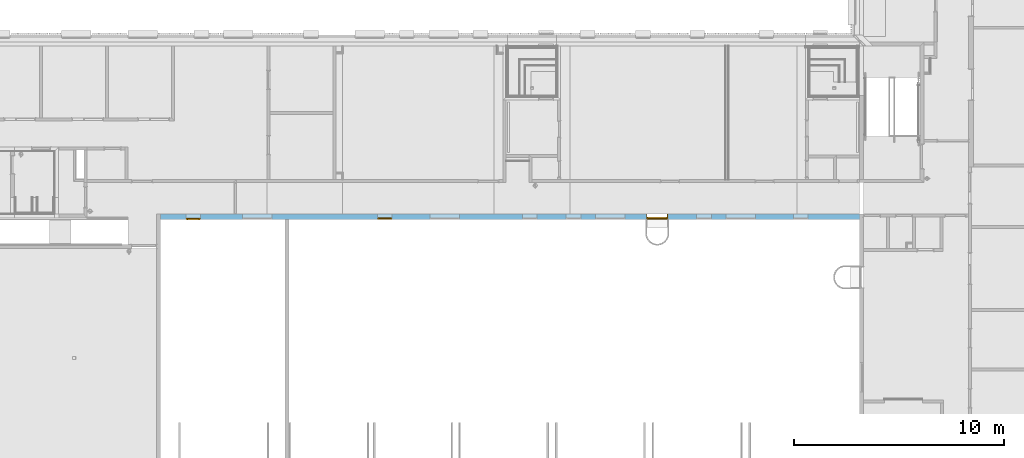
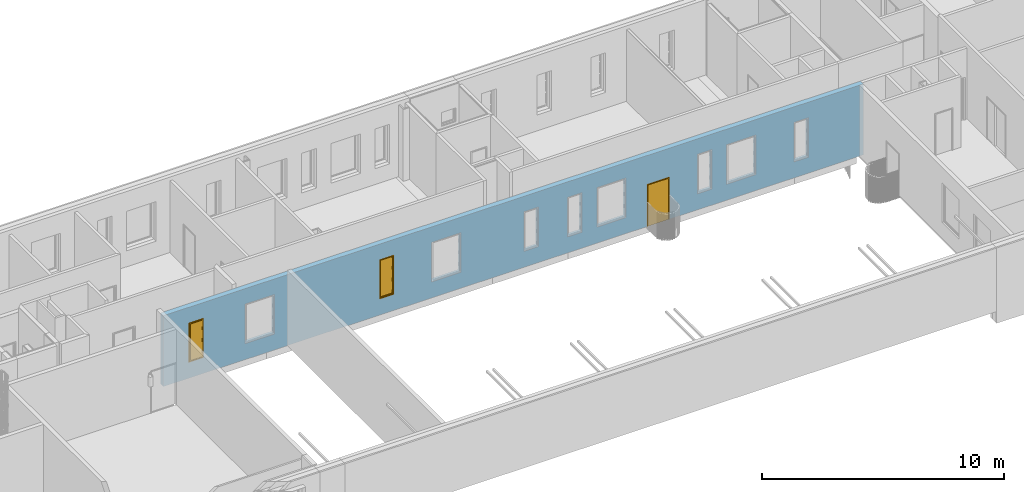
# One storey, part 54 of 100: 2 windows, 1 door, 11 openings, plus 1 element that does not belong to this part.
"""IFC2X3 building model written with IfcOpenShell, lengths in millimetres."""

from ifc_helpers import new_model, entity, si_unit, converted_unit, derived_unit, money_unit, direction, frame, origin_with_axes, origin_2d_with_axis, place, context, subcontext, project, spatial, polyline, rectangle, outline, extrude, open_shell, faceted_brep, surface_model, material, layer, layer_set, layer_usage, type_object, element, fill, save


model = new_model("IFC2X3")

# Units and contexts
model_context = context("Model", 3, precision=0.01, world=origin_with_axes(), true_north=direction((0.0, 1.0)))
body_context = subcontext(model_context, "Body", "Model", "MODEL_VIEW")
ifc_project = project(units=[si_unit("LENGTHUNIT", "METRE", prefix="MILLI"), si_unit("AREAUNIT", "SQUARE_METRE"), si_unit("VOLUMEUNIT", "CUBIC_METRE"), converted_unit("PLANEANGLEUNIT", "DEGREE", entity("IfcPlaneAngleMeasure", 0.0174532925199), si_unit("PLANEANGLEUNIT", "RADIAN"), dimensions=[0, 0, 0, 0, 0, 0, 0]), si_unit("SOLIDANGLEUNIT", "STERADIAN"), money_unit("EUR"), converted_unit("TIMEUNIT", "Year", entity("IfcTimeMeasure", 31556926.0), si_unit("TIMEUNIT", "SECOND"), dimensions=[0, 0, 1, 0, 0, 0, 0]), si_unit("MASSUNIT", "GRAM", prefix="KILO"), si_unit("THERMODYNAMICTEMPERATUREUNIT", "DEGREE_CELSIUS"), si_unit("LUMINOUSINTENSITYUNIT", "LUMEN"), si_unit("ENERGYUNIT", "JOULE", prefix="MEGA"), derived_unit("THERMALCONDUCTANCEUNIT", [(si_unit("POWERUNIT", "WATT"), 1), (si_unit("LENGTHUNIT", "METRE"), -1), (si_unit("THERMODYNAMICTEMPERATUREUNIT", "KELVIN"), -1)]), derived_unit("SPECIFICHEATCAPACITYUNIT", [(si_unit("ENERGYUNIT", "JOULE"), 1), (si_unit("MASSUNIT", "GRAM", prefix="KILO"), -1), (si_unit("THERMODYNAMICTEMPERATUREUNIT", "KELVIN"), -1)]), derived_unit("MASSDENSITYUNIT", [(si_unit("MASSUNIT", "GRAM", prefix="KILO"), 1), (si_unit("VOLUMEUNIT", "CUBIC_METRE"), -1)])], contexts=[model_context])

# Site, building, storey
site_placement = place(None, origin_with_axes())
site = spatial("IfcSite", under=ifc_project, at=site_placement, Name="Politse- ja Piirivalveameti ning Päästeameti ühishoone", CompositionType="ELEMENT")
building_placement = place(site_placement, origin_with_axes())
building = spatial("IfcBuilding", under=site, at=building_placement, Name="Politse- ja Piirivalveameti ning Päästeameti ühishoone", CompositionType="ELEMENT")
storey_placement = place(building_placement, frame((0.0, 0.0, 3800.0), z_axis=(0.0, 0.0, 1.0), x_axis=(1.0, 0.0, 0.0)))
storey = spatial("IfcBuildingStorey", under=building, at=storey_placement, Name="Teine korrus", CompositionType="ELEMENT", Elevation=3800.0)

# Wall, openings, windows, door
ifc_material = material(Name="KON-05_Betoon Plokk - Konstuktsioon")
ifc_layer = layer(ifc_material, 240.0, ventilated="UNKNOWN")
ifc_layer_set = layer_set([ifc_layer], Name="SS-04_Sisesein 240")
ifc_layer_usage = layer_usage(ifc_layer_set, "AXIS2", "POSITIVE", -240.0)
wall_type = type_object("IfcWallType", Name="SS-04_Sisesein 240 240", PredefinedType="NOTDEFINED")
wall_placement = place(storey_placement, frame((26759.7008828, 13000.0198611, 0.0), z_axis=(0.0, 0.0, 1.0), x_axis=(1.0, 0.0, 0.0)))
wall = element("IfcWallStandardCase", 1, at=wall_placement, inside=storey, type_object=wall_type, material=ifc_layer_usage, Name="SS-04", context=body_context, shape_type="SweptSolid", body=[
    extrude(outline(polyline([(0.0, -240.0), (33400.851029, -240.0), (33400.851029, 0.0), (0.0, 0.0), (0.0, -240.0)])), origin_with_axes(), (0.0, 0.0, 1.0), 3575.0),
])
opening_1_placement = place(wall_placement, frame((1549.54610995, 0.0, 800.0), z_axis=(0.0, 0.0, 1.0), x_axis=(1.0, 0.0, 0.0)))
opening_1 = element("IfcOpeningElement", 2, at=opening_1_placement, cuts=wall, Name="TA-01", context=body_context, shape_type="SweptSolid", body=[
    extrude(rectangle(XDim=700.0, YDim=2000.0, at=origin_2d_with_axis()), frame((0.0, 240.0, 1000.0), z_axis=(0.0, 1.0, 0.0), x_axis=(1.0, 0.0, 0.0)), (0.0, 0.0, -1.0), 720.0),
])
opening_2_placement = place(wall_placement, frame((4599.46172748, 0.0, 800.0), z_axis=(0.0, 0.0, 1.0), x_axis=(1.0, 0.0, 0.0)))
element("IfcOpeningElement", 3, at=opening_2_placement, cuts=wall, Name="TA-02", context=body_context, shape_type="SweptSolid", body=[
    extrude(rectangle(XDim=1400.0, YDim=2000.0, at=origin_2d_with_axis()), frame((0.0, 240.0, 1000.0), z_axis=(0.0, 1.0, 0.0), x_axis=(-1.0, 0.0, 0.0)), (0.0, 0.0, -1.0), 720.0),
])
opening_3_placement = place(wall_placement, frame((10649.913827, 0.0, 800.0), z_axis=(0.0, 0.0, 1.0), x_axis=(1.0, 0.0, 0.0)))
opening_3 = element("IfcOpeningElement", 4, at=opening_3_placement, cuts=wall, Name="TA-01", context=body_context, shape_type="SweptSolid", body=[
    extrude(rectangle(XDim=700.0, YDim=2000.0, at=origin_2d_with_axis()), frame((0.0, 240.0, 1000.0), z_axis=(0.0, 1.0, 0.0), x_axis=(-1.0, 0.0, 0.0)), (0.0, 0.0, -1.0), 720.0),
])
opening_4_placement = place(wall_placement, frame((13499.54611, 0.0, 800.0), z_axis=(0.0, 0.0, 1.0), x_axis=(1.0, 0.0, 0.0)))
element("IfcOpeningElement", 5, at=opening_4_placement, cuts=wall, Name="TA-02", context=body_context, shape_type="SweptSolid", body=[
    extrude(rectangle(XDim=1400.0, YDim=2000.0, at=origin_2d_with_axis()), frame((0.0, 240.0, 1000.0), z_axis=(0.0, 1.0, 0.0), x_axis=(-1.0, 0.0, 0.0)), (0.0, 0.0, -1.0), 720.0),
])
opening_5_placement = place(wall_placement, frame((17549.9734869, 0.0, 800.0), z_axis=(0.0, 0.0, 1.0), x_axis=(1.0, 0.0, 0.0)))
element("IfcOpeningElement", 6, at=opening_5_placement, cuts=wall, Name="TA-01", context=body_context, shape_type="SweptSolid", body=[
    extrude(rectangle(XDim=700.0, YDim=2000.0, at=origin_2d_with_axis()), frame((0.0, 240.0, 1000.0), z_axis=(0.0, -1.0, 0.0), x_axis=(1.0, 0.0, 0.0)), (0.0, 0.0, 1.0), 720.0),
])
opening_6_placement = place(wall_placement, frame((19626.54611, 0.0, 800.0), z_axis=(0.0, 0.0, 1.0), x_axis=(1.0, 0.0, 0.0)))
element("IfcOpeningElement", 7, at=opening_6_placement, cuts=wall, Name="TA-01", context=body_context, shape_type="SweptSolid", body=[
    extrude(rectangle(XDim=700.0, YDim=2000.0, at=origin_2d_with_axis()), frame((0.0, 240.0, 1000.0), z_axis=(0.0, -1.0, 0.0), x_axis=(1.0, 0.0, 0.0)), (0.0, 0.0, 1.0), 720.0),
])
opening_7_placement = place(wall_placement, frame((21376.54611, 0.0, 800.0), z_axis=(0.0, 0.0, 1.0), x_axis=(1.0, 0.0, 0.0)))
element("IfcOpeningElement", 8, at=opening_7_placement, cuts=wall, Name="TA-02", context=body_context, shape_type="SweptSolid", body=[
    extrude(rectangle(XDim=1400.0, YDim=2000.0, at=origin_2d_with_axis()), frame((0.0, 240.0, 1000.0), z_axis=(0.0, 1.0, 0.0), x_axis=(-1.0, 0.0, 0.0)), (0.0, 0.0, -1.0), 720.0),
])
opening_8_placement = place(wall_placement, frame((27576.8440012, 0.0, 800.0), z_axis=(0.0, 0.0, 1.0), x_axis=(1.0, 0.0, 0.0)))
element("IfcOpeningElement", 9, at=opening_8_placement, cuts=wall, Name="TA-02", context=body_context, shape_type="SweptSolid", body=[
    extrude(rectangle(XDim=1400.0, YDim=2000.0, at=origin_2d_with_axis()), frame((0.0, 240.0, 1000.0), z_axis=(0.0, 1.0, 0.0), x_axis=(-1.0, 0.0, 0.0)), (0.0, 0.0, -1.0), 720.0),
])
opening_9_placement = place(wall_placement, frame((25826.8440012, 0.0, 800.0), z_axis=(0.0, 0.0, 1.0), x_axis=(1.0, 0.0, 0.0)))
element("IfcOpeningElement", 10, at=opening_9_placement, cuts=wall, Name="TA-01", context=body_context, shape_type="SweptSolid", body=[
    extrude(rectangle(XDim=700.0, YDim=2000.0, at=origin_2d_with_axis()), frame((0.0, 240.0, 1000.0), z_axis=(0.0, -1.0, 0.0), x_axis=(1.0, 0.0, 0.0)), (0.0, 0.0, 1.0), 720.0),
])
opening_10_placement = place(wall_placement, frame((30426.8440012, 0.0, 800.0), z_axis=(0.0, 0.0, 1.0), x_axis=(1.0, 0.0, 0.0)))
element("IfcOpeningElement", 11, at=opening_10_placement, cuts=wall, Name="TA-01", context=body_context, shape_type="SweptSolid", body=[
    extrude(rectangle(XDim=700.0, YDim=2000.0, at=origin_2d_with_axis()), frame((0.0, 240.0, 1000.0), z_axis=(0.0, -1.0, 0.0), x_axis=(1.0, 0.0, 0.0)), (0.0, 0.0, 1.0), 720.0),
])
opening_11_placement = place(wall_placement, frame((23602.5665527, 0.0, 0.0), z_axis=(0.0, 0.0, 1.0), x_axis=(1.0, 0.0, 0.0)))
opening_11 = element("IfcOpeningElement", 12, at=opening_11_placement, cuts=wall, Name="TU-01-9", context=body_context, shape_type="SweptSolid", body=[
    extrude(rectangle(XDim=1000.0, YDim=2100.0, at=origin_2d_with_axis()), frame((0.0, 240.0, 1050.0), z_axis=(0.0, 1.0, 0.0), x_axis=(1.0, 0.0, 0.0)), (0.0, 0.0, -1.0), 720.0),
    extrude(rectangle(XDim=1074.0, YDim=2137.0, at=origin_2d_with_axis()), frame((0.0, 0.0, 1068.5), z_axis=(0.0, 1.0, 0.0), x_axis=(1.0, 0.0, 0.0)), (0.0, 0.0, 1.0), 240.0),
    extrude(rectangle(XDim=1074.0, YDim=2137.0, at=origin_2d_with_axis()), frame((0.0, -240.0, 1068.5), z_axis=(0.0, -1.0, 0.0), x_axis=(1.0, 0.0, 0.0)), (0.0, 0.0, 1.0), 240.0),
])
window_style = type_object("IfcWindowStyle", Name="Window 23", ConstructionType="NOTDEFINED", OperationType="SINGLE_PANEL", ParameterTakesPrecedence=False, Sizeable=False)
window_1_placement = place(opening_1_placement, frame((350.0, 0.0, 0.0), z_axis=(0.0, 0.0, 1.0), x_axis=(-1.0, 0.0, 0.0)))
window_1 = element("IfcWindow", 13, at=window_1_placement, inside=storey, type_object=window_style, Name="TA-01", ObjectType="WINDOW", OverallHeight=2000.0, OverallWidth=700.0, context=body_context, shape_type="SurfaceModel", body=[
    faceted_brep([(675.0, 240.0, 1950.0), (675.0, 215.0, 1950.0), (650.0, 215.0, 1950.0), (650.0, 190.0, 1950.0), (700.0, 190.0, 1950.0), (700.0, 240.0, 1950.0), (675.0, 240.0, 50.0), (675.0, 215.0, 50.0), (650.0, 215.0, 50.0), (650.0, 190.0, 50.0), (700.0, 190.0, 50.0), (700.0, 240.0, 50.0)], [[[0, 1, 2, 3, 4, 5]], [[1, 0, 6, 7]], [[8, 2, 1, 7]], [[2, 8, 9, 3]], [[4, 3, 9, 10]], [[5, 4, 10, 11]], [[6, 0, 5, 11]], [[7, 6, 11, 10, 9, 8]]]),
    faceted_brep([(50.0, 215.0, 1950.0), (25.0, 215.0, 1950.0), (25.0, 240.0, 1950.0), (0.0, 240.0, 1950.0), (0.0, 190.0, 1950.0), (50.0, 190.0, 1950.0), (50.0, 215.0, 50.0), (25.0, 215.0, 50.0), (25.0, 240.0, 50.0), (0.0, 240.0, 50.0), (0.0, 190.0, 50.0), (50.0, 190.0, 50.0)], [[[0, 1, 2, 3, 4, 5]], [[1, 0, 6, 7]], [[8, 2, 1, 7]], [[2, 8, 9, 3]], [[9, 10, 4, 3]], [[10, 11, 5, 4]], [[6, 0, 5, 11]], [[7, 6, 11, 10, 9, 8]]]),
    faceted_brep([(50.0, 215.0, 50.0), (25.0, 215.0, 50.0), (25.0, 240.0, 50.0), (0.0, 240.0, 50.0), (0.0, 190.0, 50.0), (50.0, 190.0, 50.0), (650.0, 215.0, 50.0), (675.0, 215.0, 50.0), (675.0, 215.0, 25.0), (25.0, 215.0, 25.0), (25.0, 240.0, 25.0), (675.0, 240.0, 25.0), (675.0, 240.0, 50.0), (700.0, 240.0, 50.0), (700.0, 240.0, 0.0), (0.0, 240.0, 0.0), (0.0, 190.0, 0.0), (700.0, 190.0, 50.0), (650.0, 190.0, 50.0), (700.0, 190.0, 0.0)], [[[0, 1, 2, 3, 4, 5]], [[1, 0, 6, 7, 8, 9]], [[10, 2, 1, 9]], [[11, 12, 13, 14, 15, 3, 2, 10]], [[15, 16, 4, 3]], [[17, 18, 5, 4, 16, 19]], [[6, 0, 5, 18]], [[7, 6, 18, 17, 13, 12]], [[7, 12, 11, 8]], [[11, 10, 9, 8]], [[13, 17, 19, 14]], [[14, 19, 16, 15]]]),
    faceted_brep([(675.0, 240.0, 1950.0), (675.0, 240.0, 1975.0), (25.0, 240.0, 1975.0), (25.0, 240.0, 1950.0), (0.0, 240.0, 1950.0), (0.0, 240.0, 2000.0), (700.0, 240.0, 2000.0), (700.0, 240.0, 1950.0), (675.0, 215.0, 1950.0), (675.0, 215.0, 1975.0), (25.0, 215.0, 1975.0), (25.0, 215.0, 1950.0), (50.0, 215.0, 1950.0), (50.0, 190.0, 1950.0), (0.0, 190.0, 1950.0), (0.0, 190.0, 2000.0), (700.0, 190.0, 2000.0), (700.0, 190.0, 1950.0), (650.0, 190.0, 1950.0), (650.0, 215.0, 1950.0)], [[[0, 1, 2, 3, 4, 5, 6, 7]], [[1, 0, 8, 9]], [[2, 1, 9, 10]], [[3, 2, 10, 11]], [[11, 12, 13, 14, 4, 3]], [[4, 14, 15, 5]], [[5, 15, 16, 6]], [[6, 16, 17, 7]], [[8, 0, 7, 17, 18, 19]], [[12, 11, 10, 9, 8, 19]], [[12, 19, 18, 13]], [[14, 13, 18, 17, 16, 15]]]),
    faceted_brep([(625.0, 215.0, 1925.0), (675.0, 215.0, 1925.0), (675.0, 265.0, 1925.0), (625.0, 265.0, 1925.0), (625.0, 215.0, 75.0), (675.0, 215.0, 75.0), (675.0, 265.0, 75.0), (625.0, 265.0, 75.0)], [[[0, 1, 2, 3]], [[0, 4, 5, 1]], [[1, 5, 6, 2]], [[3, 2, 6, 7]], [[4, 0, 3, 7]], [[5, 4, 7, 6]]]),
    faceted_brep([(75.0, 215.0, 75.0), (25.0, 215.0, 75.0), (25.0, 265.0, 75.0), (75.0, 265.0, 75.0), (75.0, 215.0, 1925.0), (25.0, 215.0, 1925.0), (25.0, 265.0, 1925.0), (75.0, 265.0, 1925.0)], [[[0, 1, 2, 3]], [[0, 4, 5, 1]], [[1, 5, 6, 2]], [[3, 2, 6, 7]], [[4, 0, 3, 7]], [[5, 4, 7, 6]]]),
    faceted_brep([(25.0, 215.0, 25.0), (25.0, 215.0, 75.0), (25.0, 265.0, 75.0), (25.0, 265.0, 25.0), (675.0, 215.0, 25.0), (675.0, 215.0, 75.0), (625.0, 215.0, 75.0), (75.0, 215.0, 75.0), (75.0, 265.0, 75.0), (625.0, 265.0, 75.0), (675.0, 265.0, 75.0), (675.0, 265.0, 25.0)], [[[0, 1, 2, 3]], [[0, 4, 5, 6, 7, 1]], [[1, 7, 8, 2]], [[3, 2, 8, 9, 10, 11]], [[4, 0, 3, 11]], [[5, 4, 11, 10]], [[6, 5, 10, 9]], [[7, 6, 9, 8]]]),
    faceted_brep([(675.0, 215.0, 1975.0), (675.0, 215.0, 1925.0), (675.0, 265.0, 1925.0), (675.0, 265.0, 1975.0), (25.0, 215.0, 1975.0), (25.0, 215.0, 1925.0), (75.0, 215.0, 1925.0), (625.0, 215.0, 1925.0), (625.0, 265.0, 1925.0), (75.0, 265.0, 1925.0), (25.0, 265.0, 1925.0), (25.0, 265.0, 1975.0)], [[[0, 1, 2, 3]], [[0, 4, 5, 6, 7, 1]], [[1, 7, 8, 2]], [[3, 2, 8, 9, 10, 11]], [[4, 0, 3, 11]], [[5, 4, 11, 10]], [[6, 5, 10, 9]], [[7, 6, 9, 8]]]),
    surface_model("IfcShellBasedSurfaceModel", [(625.0, 230.0, 75.0), (625.0, 230.0, 1925.0), (75.0, 230.0, 1925.0), (75.0, 230.0, 75.0)], [open_shell([[[0, 1, 2, 3]]])]),
    surface_model("IfcShellBasedSurfaceModel", [(625.0, 250.0, 75.0), (75.0, 250.0, 75.0), (75.0, 250.0, 1925.0), (625.0, 250.0, 1925.0)], [open_shell([[[0, 1, 2, 3]]])]),
])
fill(opening_1, window_1)
window_2_placement = place(opening_3_placement, frame((-350.0, 0.0, 0.0), z_axis=(0.0, 0.0, 1.0), x_axis=(1.0, 0.0, 0.0)))
window_2 = element("IfcWindow", 14, at=window_2_placement, inside=storey, type_object=window_style, Name="TA-01", ObjectType="WINDOW", OverallHeight=2000.0, OverallWidth=700.0, context=body_context, shape_type="SurfaceModel", body=[
    faceted_brep([(675.0, -190.0, 1950.0), (675.0, -215.0, 1950.0), (650.0, -215.0, 1950.0), (650.0, -240.0, 1950.0), (700.0, -240.0, 1950.0), (700.0, -190.0, 1950.0), (675.0, -190.0, 50.0), (675.0, -215.0, 50.0), (650.0, -215.0, 50.0), (650.0, -240.0, 50.0), (700.0, -240.0, 50.0), (700.0, -190.0, 50.0)], [[[0, 1, 2, 3, 4, 5]], [[1, 0, 6, 7]], [[8, 2, 1, 7]], [[2, 8, 9, 3]], [[4, 3, 9, 10]], [[5, 4, 10, 11]], [[6, 0, 5, 11]], [[7, 6, 11, 10, 9, 8]]]),
    faceted_brep([(50.0, -215.0, 1950.0), (25.0, -215.0, 1950.0), (25.0, -190.0, 1950.0), (0.0, -190.0, 1950.0), (0.0, -240.0, 1950.0), (50.0, -240.0, 1950.0), (50.0, -215.0, 50.0), (25.0, -215.0, 50.0), (25.0, -190.0, 50.0), (0.0, -190.0, 50.0), (0.0, -240.0, 50.0), (50.0, -240.0, 50.0)], [[[0, 1, 2, 3, 4, 5]], [[1, 0, 6, 7]], [[8, 2, 1, 7]], [[2, 8, 9, 3]], [[9, 10, 4, 3]], [[10, 11, 5, 4]], [[6, 0, 5, 11]], [[7, 6, 11, 10, 9, 8]]]),
    faceted_brep([(50.0, -215.0, 50.0), (25.0, -215.0, 50.0), (25.0, -190.0, 50.0), (0.0, -190.0, 50.0), (0.0, -240.0, 50.0), (50.0, -240.0, 50.0), (650.0, -215.0, 50.0), (675.0, -215.0, 50.0), (675.0, -215.0, 25.0), (25.0, -215.0, 25.0), (25.0, -190.0, 25.0), (675.0, -190.0, 25.0), (675.0, -190.0, 50.0), (700.0, -190.0, 50.0), (700.0, -190.0, 0.0), (0.0, -190.0, 0.0), (0.0, -240.0, 0.0), (700.0, -240.0, 50.0), (650.0, -240.0, 50.0), (700.0, -240.0, 0.0)], [[[0, 1, 2, 3, 4, 5]], [[1, 0, 6, 7, 8, 9]], [[10, 2, 1, 9]], [[11, 12, 13, 14, 15, 3, 2, 10]], [[15, 16, 4, 3]], [[17, 18, 5, 4, 16, 19]], [[6, 0, 5, 18]], [[7, 6, 18, 17, 13, 12]], [[7, 12, 11, 8]], [[11, 10, 9, 8]], [[13, 17, 19, 14]], [[14, 19, 16, 15]]]),
    faceted_brep([(675.0, -190.0, 1950.0), (675.0, -190.0, 1975.0), (25.0, -190.0, 1975.0), (25.0, -190.0, 1950.0), (0.0, -190.0, 1950.0), (0.0, -190.0, 2000.0), (700.0, -190.0, 2000.0), (700.0, -190.0, 1950.0), (675.0, -215.0, 1950.0), (675.0, -215.0, 1975.0), (25.0, -215.0, 1975.0), (25.0, -215.0, 1950.0), (50.0, -215.0, 1950.0), (50.0, -240.0, 1950.0), (0.0, -240.0, 1950.0), (0.0, -240.0, 2000.0), (700.0, -240.0, 2000.0), (700.0, -240.0, 1950.0), (650.0, -240.0, 1950.0), (650.0, -215.0, 1950.0)], [[[0, 1, 2, 3, 4, 5, 6, 7]], [[1, 0, 8, 9]], [[2, 1, 9, 10]], [[3, 2, 10, 11]], [[11, 12, 13, 14, 4, 3]], [[4, 14, 15, 5]], [[5, 15, 16, 6]], [[6, 16, 17, 7]], [[8, 0, 7, 17, 18, 19]], [[12, 11, 10, 9, 8, 19]], [[12, 19, 18, 13]], [[14, 13, 18, 17, 16, 15]]]),
    faceted_brep([(625.0, -215.0, 1925.0), (675.0, -215.0, 1925.0), (675.0, -165.0, 1925.0), (625.0, -165.0, 1925.0), (625.0, -215.0, 75.0), (675.0, -215.0, 75.0), (675.0, -165.0, 75.0), (625.0, -165.0, 75.0)], [[[0, 1, 2, 3]], [[0, 4, 5, 1]], [[1, 5, 6, 2]], [[3, 2, 6, 7]], [[4, 0, 3, 7]], [[5, 4, 7, 6]]]),
    faceted_brep([(75.0, -215.0, 75.0), (25.0, -215.0, 75.0), (25.0, -165.0, 75.0), (75.0, -165.0, 75.0), (75.0, -215.0, 1925.0), (25.0, -215.0, 1925.0), (25.0, -165.0, 1925.0), (75.0, -165.0, 1925.0)], [[[0, 1, 2, 3]], [[0, 4, 5, 1]], [[1, 5, 6, 2]], [[3, 2, 6, 7]], [[4, 0, 3, 7]], [[5, 4, 7, 6]]]),
    faceted_brep([(25.0, -215.0, 25.0), (25.0, -215.0, 75.0), (25.0, -165.0, 75.0), (25.0, -165.0, 25.0), (675.0, -215.0, 25.0), (675.0, -215.0, 75.0), (625.0, -215.0, 75.0), (75.0, -215.0, 75.0), (75.0, -165.0, 75.0), (625.0, -165.0, 75.0), (675.0, -165.0, 75.0), (675.0, -165.0, 25.0)], [[[0, 1, 2, 3]], [[0, 4, 5, 6, 7, 1]], [[1, 7, 8, 2]], [[3, 2, 8, 9, 10, 11]], [[4, 0, 3, 11]], [[5, 4, 11, 10]], [[6, 5, 10, 9]], [[7, 6, 9, 8]]]),
    faceted_brep([(675.0, -215.0, 1975.0), (675.0, -215.0, 1925.0), (675.0, -165.0, 1925.0), (675.0, -165.0, 1975.0), (25.0, -215.0, 1975.0), (25.0, -215.0, 1925.0), (75.0, -215.0, 1925.0), (625.0, -215.0, 1925.0), (625.0, -165.0, 1925.0), (75.0, -165.0, 1925.0), (25.0, -165.0, 1925.0), (25.0, -165.0, 1975.0)], [[[0, 1, 2, 3]], [[0, 4, 5, 6, 7, 1]], [[1, 7, 8, 2]], [[3, 2, 8, 9, 10, 11]], [[4, 0, 3, 11]], [[5, 4, 11, 10]], [[6, 5, 10, 9]], [[7, 6, 9, 8]]]),
    surface_model("IfcShellBasedSurfaceModel", [(625.0, -200.0, 75.0), (625.0, -200.0, 1925.0), (75.0, -200.0, 1925.0), (75.0, -200.0, 75.0)], [open_shell([[[0, 1, 2, 3]]])]),
    surface_model("IfcShellBasedSurfaceModel", [(625.0, -180.0, 75.0), (75.0, -180.0, 75.0), (75.0, -180.0, 1925.0), (625.0, -180.0, 1925.0)], [open_shell([[[0, 1, 2, 3]]])]),
])
fill(opening_3, window_2)
door_style = type_object("IfcDoorStyle", Name="Double Door Asymmetric 23", ConstructionType="NOTDEFINED", OperationType="DOUBLE_DOOR_SINGLE_SWING", ParameterTakesPrecedence=False, Sizeable=False)
door_placement = place(opening_11_placement, frame((500.0, 0.0, 0.0), z_axis=(0.0, 0.0, 1.0), x_axis=(-1.0, 0.0, 0.0)))
door = element("IfcDoor", 15, at=door_placement, inside=storey, type_object=door_style, Name="TU-01-9", ObjectType="DOOR", OverallHeight=2100.0, OverallWidth=1000.0, context=body_context, shape_type="Brep", body=[
    faceted_brep([(28.0, 200.0, 0.0), (40.0, 200.0, 0.0), (40.0, 200.0, 12.0), (28.0, 200.0, 12.0), (972.0, 200.0, 0.0), (960.0, 200.0, 0.0), (960.0, 125.0, 0.0), (40.0, 125.0, 0.0), (40.0, 125.0, 12.0), (960.0, 125.0, 12.0), (960.0, 200.0, 12.0), (972.0, 200.0, 12.0)], [[[0, 1, 2, 3]], [[0, 4, 5, 6, 7, 1]], [[1, 7, 8, 2]], [[3, 2, 8, 9, 10, 11]], [[4, 0, 3, 11]], [[5, 4, 11, 10]], [[6, 5, 10, 9]], [[7, 6, 9, 8]]]),
    faceted_brep([(1000.0, 125.0, 0.0), (1000.0, 0.0, 0.0), (975.0, 0.0, 0.0), (975.0, 125.0, 0.0), (1000.0, 125.0, 2100.0), (1000.0, 0.0, 2100.0), (975.0, 0.0, 2075.0), (975.0, 125.0, 2075.0)], [[[0, 1, 2, 3]], [[4, 5, 1, 0]], [[1, 5, 6, 2]], [[3, 2, 6, 7]], [[0, 3, 7, 4]], [[7, 6, 5, 4]]]),
    faceted_brep([(0.0, 125.0, 2100.0), (0.0, 0.0, 2100.0), (25.0, 0.0, 2075.0), (25.0, 125.0, 2075.0), (0.0, 125.0, 0.0), (0.0, 0.0, 0.0), (25.0, 0.0, 0.0), (25.0, 125.0, 0.0)], [[[0, 1, 2, 3]], [[4, 5, 1, 0]], [[1, 5, 6, 2]], [[3, 2, 6, 7]], [[0, 3, 7, 4]], [[7, 6, 5, 4]]]),
    faceted_brep([(975.0, 125.0, 2075.0), (975.0, 0.0, 2075.0), (25.0, 0.0, 2075.0), (25.0, 125.0, 2075.0), (1000.0, 125.0, 2100.0), (1000.0, 0.0, 2100.0), (0.0, 0.0, 2100.0), (0.0, 125.0, 2100.0)], [[[0, 1, 2, 3]], [[4, 5, 1, 0]], [[1, 5, 6, 2]], [[3, 2, 6, 7]], [[0, 3, 7, 4]], [[7, 6, 5, 4]]]),
    faceted_brep([(1037.0, -19.0, 0.0), (987.0, -19.0, 0.0), (987.0, 0.0, 0.0), (1037.0, 0.0, 0.0), (1037.0, -19.0, 2137.0), (987.0, -19.0, 2087.0), (987.0, 0.0, 2087.0), (1037.0, 0.0, 2137.0)], [[[0, 1, 2, 3]], [[0, 4, 5, 1]], [[1, 5, 6, 2]], [[3, 2, 6, 7]], [[4, 0, 3, 7]], [[5, 4, 7, 6]]]),
    faceted_brep([(-37.0, -19.0, 2137.0), (13.0, -19.0, 2087.0), (13.0, 0.0, 2087.0), (-37.0, 0.0, 2137.0), (-37.0, -19.0, 0.0), (13.0, -19.0, 0.0), (13.0, 0.0, 0.0), (-37.0, 0.0, 0.0)], [[[0, 1, 2, 3]], [[0, 4, 5, 1]], [[1, 5, 6, 2]], [[3, 2, 6, 7]], [[4, 0, 3, 7]], [[5, 4, 7, 6]]]),
    faceted_brep([(1037.0, -19.0, 2137.0), (987.0, -19.0, 2087.0), (987.0, 0.0, 2087.0), (1037.0, 0.0, 2137.0), (-37.0, -19.0, 2137.0), (13.0, -19.0, 2087.0), (13.0, 0.0, 2087.0), (-37.0, 0.0, 2137.0)], [[[0, 1, 2, 3]], [[0, 4, 5, 1]], [[1, 5, 6, 2]], [[3, 2, 6, 7]], [[4, 0, 3, 7]], [[5, 4, 7, 6]]]),
    faceted_brep([(1037.0, 259.0, 0.0), (1037.0, 240.0, 0.0), (987.0, 240.0, 0.0), (987.0, 259.0, 0.0), (1037.0, 259.0, 2137.0), (1037.0, 240.0, 2137.0), (987.0, 240.0, 2087.0), (987.0, 259.0, 2087.0)], [[[0, 1, 2, 3]], [[4, 5, 1, 0]], [[1, 5, 6, 2]], [[3, 2, 6, 7]], [[0, 3, 7, 4]], [[7, 6, 5, 4]]]),
    faceted_brep([(-37.0, 259.0, 2137.0), (-37.0, 240.0, 2137.0), (13.0, 240.0, 2087.0), (13.0, 259.0, 2087.0), (-37.0, 259.0, 0.0), (-37.0, 240.0, 0.0), (13.0, 240.0, 0.0), (13.0, 259.0, 0.0)], [[[0, 1, 2, 3]], [[4, 5, 1, 0]], [[1, 5, 6, 2]], [[3, 2, 6, 7]], [[0, 3, 7, 4]], [[7, 6, 5, 4]]]),
    faceted_brep([(1037.0, 259.0, 2137.0), (1037.0, 240.0, 2137.0), (987.0, 240.0, 2087.0), (987.0, 259.0, 2087.0), (-37.0, 259.0, 2137.0), (-37.0, 240.0, 2137.0), (13.0, 240.0, 2087.0), (13.0, 259.0, 2087.0)], [[[0, 1, 2, 3]], [[4, 5, 1, 0]], [[1, 5, 6, 2]], [[3, 2, 6, 7]], [[0, 3, 7, 4]], [[7, 6, 5, 4]]]),
    faceted_brep([(960.0, 200.0, 0.0), (960.0, 125.0, 0.0), (960.0, 125.0, 2060.0), (960.0, 200.0, 2060.0), (972.0, 200.0, 0.0), (972.0, 240.0, 0.0), (1000.0, 240.0, 0.0), (1000.0, 125.0, 0.0), (1000.0, 125.0, 2060.0), (972.0, 200.0, 2060.0), (1000.0, 240.0, 2060.0), (972.0, 240.0, 2060.0)], [[[0, 1, 2, 3]], [[4, 5, 6, 7, 1, 0]], [[1, 7, 8, 2]], [[9, 3, 2, 8, 10, 11]], [[9, 4, 0, 3]], [[11, 5, 4, 9]], [[11, 10, 6, 5]], [[6, 10, 8, 7]]]),
    faceted_brep([(28.0, 200.0, 2060.0), (28.0, 240.0, 2060.0), (0.0, 240.0, 2060.0), (0.0, 125.0, 2060.0), (40.0, 125.0, 2060.0), (40.0, 200.0, 2060.0), (28.0, 200.0, 0.0), (28.0, 240.0, 0.0), (0.0, 240.0, 0.0), (0.0, 125.0, 0.0), (40.0, 125.0, 0.0), (40.0, 200.0, 0.0)], [[[0, 1, 2, 3, 4, 5]], [[0, 6, 7, 1]], [[7, 8, 2, 1]], [[2, 8, 9, 3]], [[3, 9, 10, 4]], [[5, 4, 10, 11]], [[5, 11, 6, 0]], [[6, 11, 10, 9, 8, 7]]]),
    faceted_brep([(972.0, 240.0, 2072.0), (28.0, 240.0, 2072.0), (28.0, 240.0, 2060.0), (0.0, 240.0, 2060.0), (0.0, 240.0, 2100.0), (1000.0, 240.0, 2100.0), (1000.0, 240.0, 2060.0), (972.0, 240.0, 2060.0), (972.0, 200.0, 2072.0), (28.0, 200.0, 2072.0), (28.0, 200.0, 2060.0), (40.0, 200.0, 2060.0), (40.0, 125.0, 2060.0), (0.0, 125.0, 2060.0), (0.0, 125.0, 2100.0), (1000.0, 125.0, 2100.0), (1000.0, 125.0, 2060.0), (972.0, 200.0, 2060.0), (960.0, 125.0, 2060.0), (960.0, 200.0, 2060.0)], [[[0, 1, 2, 3, 4, 5, 6, 7]], [[0, 8, 9, 1]], [[1, 9, 10, 2]], [[10, 11, 12, 13, 3, 2]], [[4, 3, 13, 14]], [[5, 4, 14, 15]], [[6, 5, 15, 16]], [[17, 7, 6, 16, 18, 19]], [[7, 17, 8, 0]], [[10, 9, 8, 17, 19, 11]], [[19, 18, 12, 11]], [[12, 18, 16, 15, 14, 13]]]),
    faceted_brep([(28.0, 240.0, 0.0), (500.0, 240.0, 0.0), (500.0, 200.0, 0.0), (28.0, 200.0, 0.0), (28.0, 240.0, 2072.0), (500.0, 240.0, 2072.0), (500.0, 200.0, 2072.0), (28.0, 200.0, 2072.0)], [[[0, 1, 2, 3]], [[0, 4, 5, 1]], [[1, 5, 6, 2]], [[3, 2, 6, 7]], [[4, 0, 3, 7]], [[5, 4, 7, 6]]]),
    faceted_brep([(972.0, 240.0, 0.0), (972.0, 200.0, 0.0), (500.0, 200.0, 0.0), (500.0, 240.0, 0.0), (972.0, 240.0, 2072.0), (972.0, 200.0, 2072.0), (500.0, 200.0, 2072.0), (500.0, 240.0, 2072.0)], [[[0, 1, 2, 3]], [[4, 5, 1, 0]], [[1, 5, 6, 2]], [[3, 2, 6, 7]], [[0, 3, 7, 4]], [[7, 6, 5, 4]]]),
])
fill(opening_11, door)

save(model, "model.ifc")
